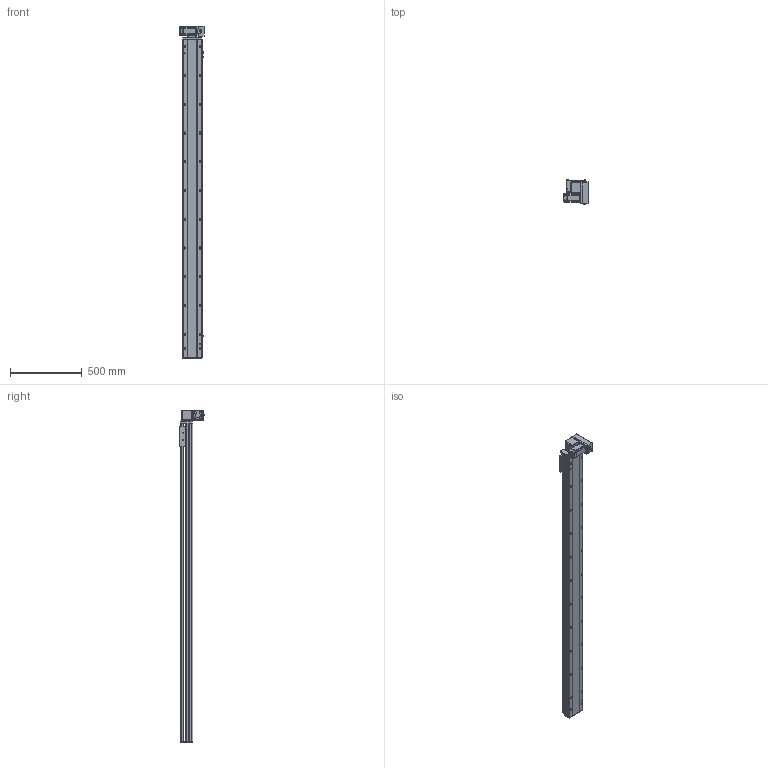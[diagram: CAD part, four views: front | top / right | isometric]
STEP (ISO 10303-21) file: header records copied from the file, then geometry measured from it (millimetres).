
FILE_DESCRIPTION (( 'STEP AP214' ), '1' );
FILE_NAME ('TPT14M-L40-1950-RD-T40-C4.STEP', '2023-03-06T07:29:59', ( '' ), ( '' ), 'SwSTEP 2.0', 'SolidWorks 2020', '' );
FILE_SCHEMA (( 'AUTOMOTIVE_DESIGN' ));
Length unit declared in the file: millimetre
Products named in the file (9): 葩璃 TPT14-L-001 菁釱MZ-135-01^TPT14M-L40-RD-T40-C4; 葩璃 侂狟400W^TPT14M-L40-RD-T40-C4; TPT14M-L40-1950-RD-T40-C4; 葩璃 TPT14-L-007 々湍釱MZ-169x88^TPT14M-L40-RD-T40-C4_YTB14M; 葩璃 pm-t65-672^TPT14M-L40-RD-T40-C4; hexagon head bolts-full thread gb_GB_FASTENER_BOLT_STBAB A M5X16-N; 葩璃 TPT14-L-005 賑釱MZ-135-07^TPT14M-L40-RD-T40-C4; 葩璃 TPT14-L-002 奻裔MZ-135-05^TPT14M-L40-RD-T40-C4; 葩璃 TPT14-L-009 萇儂啣^TPT14M-L40-RD-T40-C4_400W
Assembly tree (10 placements, depth 2):
  TPT14M-L40-1950-RD-T40-C4
    葩璃 TPT14-L-001 菁釱MZ-135-01^TPT14M-L40-RD-T40-C4
    葩璃 TPT14-L-002 奻裔MZ-135-05^TPT14M-L40-RD-T40-C4
    葩璃 TPT14-L-005 賑釱MZ-135-07^TPT14M-L40-RD-T40-C4
    葩璃 TPT14-L-007 々湍釱MZ-169x88^TPT14M-L40-RD-T40-C4_YTB14M
    葩璃 TPT14-L-009 萇儂啣^TPT14M-L40-RD-T40-C4_400W
    葩璃 pm-t65-672^TPT14M-L40-RD-T40-C4  x3
    葩璃 侂狟400W^TPT14M-L40-RD-T40-C4
    hexagon head bolts-full thread gb_GB_FASTENER_BOLT_STBAB A M5X16-N
Bounding box: 170.5 x 173.45 x 2310.5 mm (x, y, z)
Volume: 14126142.5 mm3; surface area: 2038568.5 mm2
Topology: 18 solids, 18 shells, 1530 faces, 3993 edges, 2540 vertices
Faces by surface type: plane 778, cylinder 564, cone 162, bspline 26
Entity records: 41940 total; most frequent: CARTESIAN_POINT 7670, DIRECTION 6964, ORIENTED_EDGE 6506, EDGE_CURVE 3253, AXIS2_PLACEMENT_3D 2490, VERTEX_POINT 2116, VECTOR 1984, LINE 1984
